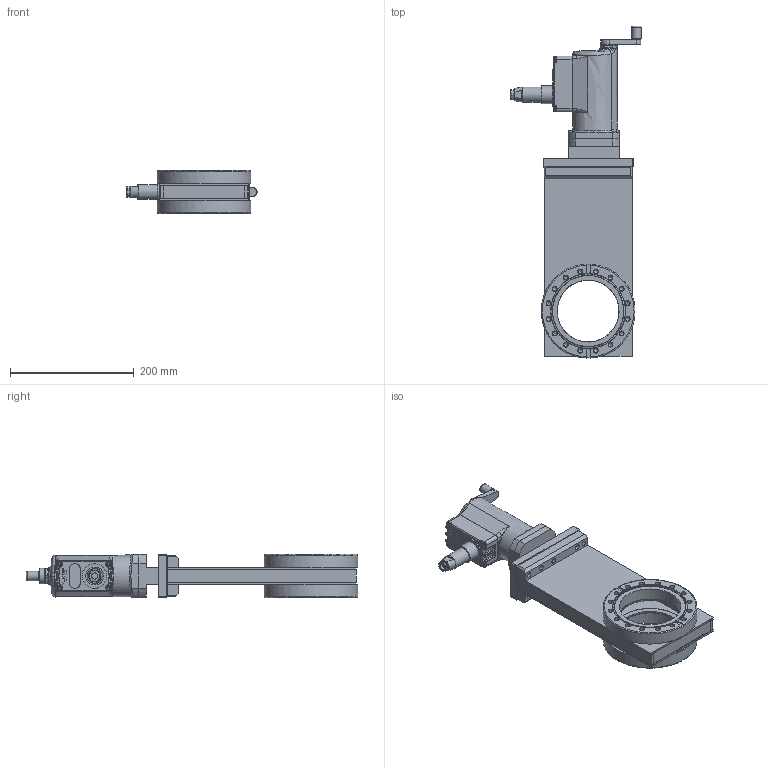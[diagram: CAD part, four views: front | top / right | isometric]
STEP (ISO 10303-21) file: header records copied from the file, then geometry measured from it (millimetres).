
FILE_DESCRIPTION((''),'2;1');
FILE_NAME('O:\MT\MT\Systeme\Cad\Datenexporte\www_vat_ch\212274.stp','2005-08-04T13:57:04',('User'),('SDRC'),'I-DEAS Master Series 9','UNIX','Yes');
FILE_SCHEMA(('CONFIG_CONTROL_DESIGN'));
Length unit declared in the file: millimetre
Assembly tree (40 placements, depth 0):
Bounding box: 210.45 x 537.04 x 70 mm (x, y, z)
Volume: 1765638.3 mm3; surface area: 475878.9 mm2
Topology: 56 solids, 56 shells, 999 faces, 2230 edges, 1400 vertices
Faces by surface type: bspline 999
Entity records: 25540 total; most frequent: CARTESIAN_POINT 13085, ORIENTED_EDGE 2950, EDGE_CURVE 1475, VERTEX_POINT 934, EDGE_LOOP 785, FACE_OUTER_BOUND 651, ADVANCED_FACE 651, B_SPLINE_CURVE_WITH_KNOTS 484
